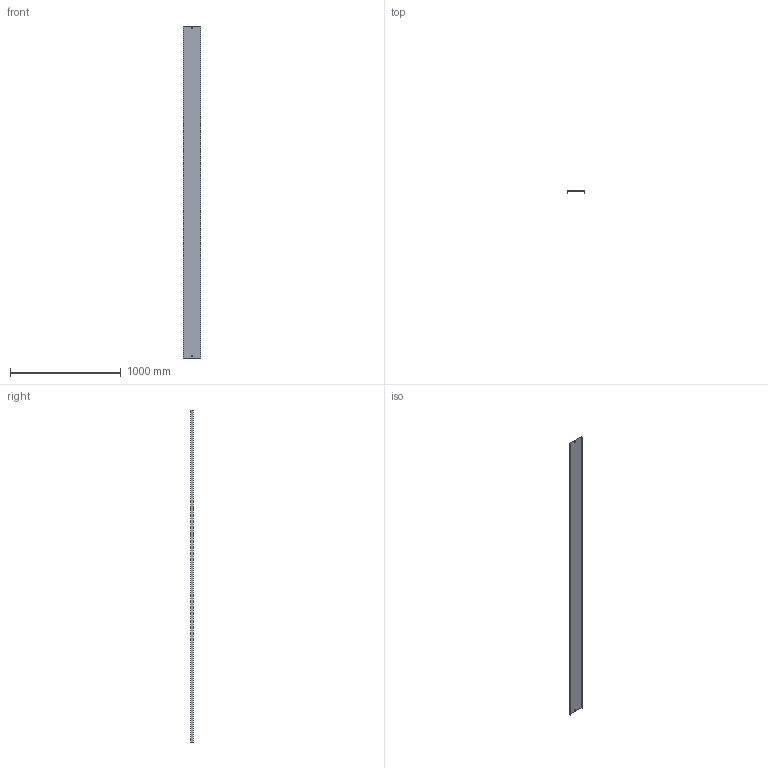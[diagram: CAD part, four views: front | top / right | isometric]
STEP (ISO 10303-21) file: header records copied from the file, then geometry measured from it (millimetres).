
FILE_DESCRIPTION (( 'STEP AP214' ), '1' );
FILE_NAME ('05G3R150.step', '2025-02-21T13:07:48', ( '' ), ( '' ), 'SwSTEP 2.0', 'SolidWorks 2023', '' );
FILE_SCHEMA (( 'AUTOMOTIVE_DESIGN' ));
Length unit declared in the file: millimetre
Products named in the file (1): 05G3R150
Bounding box: 157 x 20 x 3000 mm (x, y, z)
Volume: 872824.5 mm3; surface area: 1173441 mm2
Topology: 1 solids, 1 shells, 18 faces, 48 edges, 32 vertices
Faces by surface type: plane 18
Entity records: 583 total; most frequent: CARTESIAN_POINT 99, ORIENTED_EDGE 96, DIRECTION 86, EDGE_CURVE 48, LINE 48, VECTOR 48, VERTEX_POINT 32, EDGE_LOOP 22
